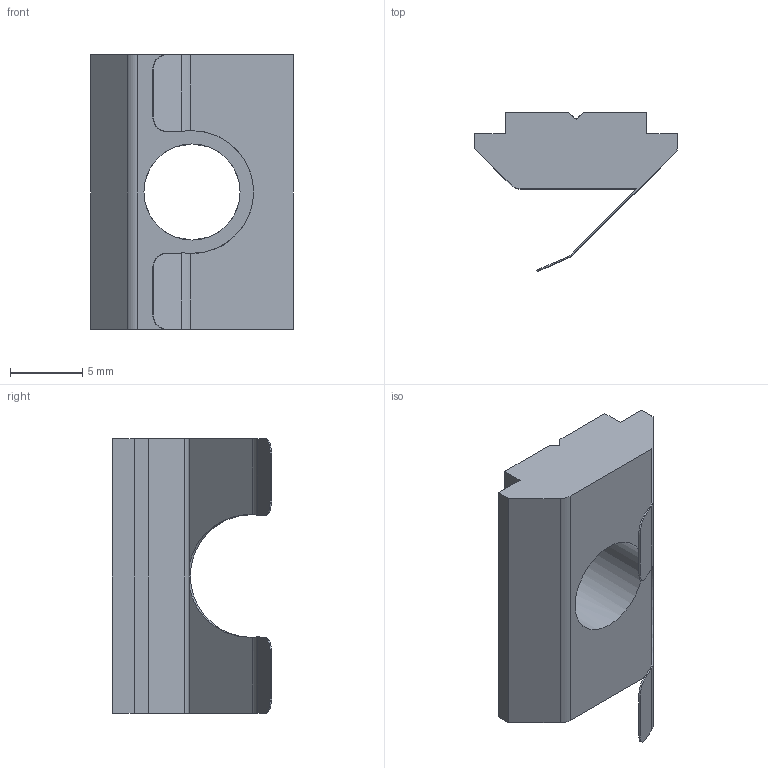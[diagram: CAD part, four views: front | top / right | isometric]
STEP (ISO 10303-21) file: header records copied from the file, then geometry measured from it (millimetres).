
FILE_DESCRIPTION((''),'2;1');
FILE_NAME('E:\catalogue and flyer\Profile catalogue 2015\Accessories JE info\Accessories-JE step file 31MAr16\JE-SN8-10.stp','2016-03-31T16:55:08',('h029'),(''),'Autodesk Inventor 11','Autodesk Inventor 11','');
FILE_SCHEMA(('AUTOMOTIVE_DESIGN { 1 0 10303 214 1 1 1 1 }'));
Length unit declared in the file: millimetre
Products named in the file (1): JE-SN8-10
Bounding box: 14 x 11 x 19 mm (x, y, z)
Volume: 970.7 mm3; surface area: 1050.2 mm2
Topology: 1 solids, 1 shells, 44 faces, 124 edges, 81 vertices
Faces by surface type: plane 31, cylinder 10, cone 2, bspline 1
Entity records: 1459 total; most frequent: CARTESIAN_POINT 296, ORIENTED_EDGE 244, DIRECTION 231, EDGE_CURVE 122, VECTOR 85, LINE 85, VERTEX_POINT 80, AXIS2_PLACEMENT_3D 73
